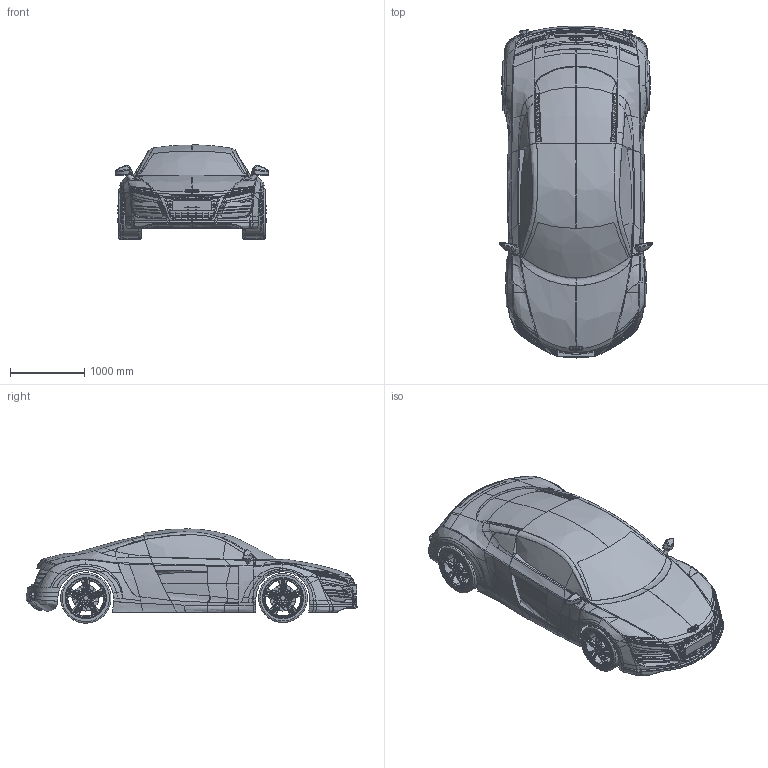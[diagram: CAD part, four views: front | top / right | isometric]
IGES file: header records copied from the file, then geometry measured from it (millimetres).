
Start section: START RECORD GO HERE.
Global section: file name: Produit1_AllCATPart.igs; native system: DASSAULT SYSTEMES CATIA V5 R20 - www.3ds.com; preprocessor: CATIA Version 5 Release 20 ; author: ASUS; organization: ASUS-PC; date: 20141025.143846; units: millimetre
Bounding box: 2067.58 x 4459.13 x 1267.2 mm (x, y, z)
Surface area: 34006165.4 mm2 (no closed solid volume)
Topology: 0 solids, 0 shells, 5240 faces, 31944 edges, 31920 vertices
Faces by surface type: bspline 2605, revolution 1966, plane 596, extrusion 73
